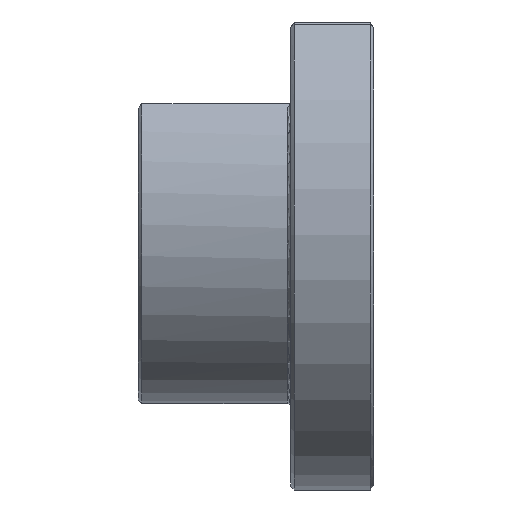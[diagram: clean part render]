
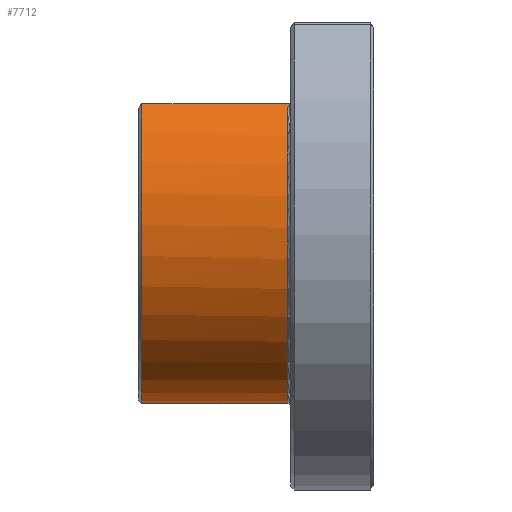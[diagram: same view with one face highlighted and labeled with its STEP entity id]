
A CAD part, left-side view. The second image highlights one B-rep face of the part: STEP entity #7712.
In plain terms, the highlighted cylindrical face has radius 27.5 mm (diameter 55 mm), a partial arc.
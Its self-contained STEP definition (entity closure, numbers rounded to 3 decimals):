
#106 = VERTEX_POINT ( 'NONE', #3977 ) ;
#721 = CARTESIAN_POINT ( 'NONE',  ( 0., 33.5, -27.5 ) ) ;
#757 = VECTOR ( 'NONE', #11191, 1000. ) ;
#1050 = DIRECTION ( 'NONE',  ( 0., -1., 0. ) ) ;
#1069 = EDGE_CURVE ( 'NONE', #8941, #8280, #2994, .T. ) ;
#1084 = DIRECTION ( 'NONE',  ( 0., 0., -1. ) ) ;
#1784 = CARTESIAN_POINT ( 'NONE',  ( 0., 12.5, 0. ) ) ;
#2421 =( BOUNDED_CURVE ( )  B_SPLINE_CURVE ( 3, ( #6848, #9699, #6203, #9764 ),
 .UNSPECIFIED., .F., .F. ) 
 B_SPLINE_CURVE_WITH_KNOTS ( ( 4, 4 ),
 ( 4.251, 4.278 ),
 .UNSPECIFIED. ) 
 CURVE ( )  GEOMETRIC_REPRESENTATION_ITEM ( )  RATIONAL_B_SPLINE_CURVE ( ( 1., 1., 1., 1. ) ) 
 REPRESENTATION_ITEM ( '' )  );
#2994 = LINE ( 'NONE', #5784, #757 ) ;
#3533 = EDGE_LOOP ( 'NONE', ( #9237, #11259, #7341, #3663, #4030 ) ) ;
#3663 = ORIENTED_EDGE ( 'NONE', *, *, #10586, .T. ) ;
#3804 = CARTESIAN_POINT ( 'NONE',  ( 0., 33.5, 0. ) ) ;
#3935 = CARTESIAN_POINT ( 'NONE',  ( -22.497, 33.5, 15.815 ) ) ;
#3977 = CARTESIAN_POINT ( 'NONE',  ( -22.908, 12.5, 15.214 ) ) ;
#4008 = CYLINDRICAL_SURFACE ( 'NONE', #7311, 27.5 ) ;
#4030 = ORIENTED_EDGE ( 'NONE', *, *, #11242, .T. ) ;
#4166 = CARTESIAN_POINT ( 'NONE',  ( 0., 12.5, -27.5 ) ) ;
#4916 = DIRECTION ( 'NONE',  ( 0., -1., 0. ) ) ;
#5042 = LINE ( 'NONE', #7680, #9696 ) ;
#5138 = EDGE_CURVE ( 'NONE', #8280, #106, #8106, .T. ) ;
#5338 = CARTESIAN_POINT ( 'NONE',  ( -22.497, 11.843, 15.815 ) ) ;
#5784 = CARTESIAN_POINT ( 'NONE',  ( 0., -24.17, -27.5 ) ) ;
#5931 = DIRECTION ( 'NONE',  ( 0., 0., -1. ) ) ;
#5981 = FACE_OUTER_BOUND ( 'NONE', #3533, .T. ) ;
#6203 = CARTESIAN_POINT ( 'NONE',  ( -22.637, 12.064, 15.616 ) ) ;
#6351 = EDGE_CURVE ( 'NONE', #9336, #8941, #10062, .T. ) ;
#6848 = CARTESIAN_POINT ( 'NONE',  ( -22.908, 12.5, 15.214 ) ) ;
#6907 = CARTESIAN_POINT ( 'NONE',  ( 0., -24.17, 0. ) ) ;
#7311 = AXIS2_PLACEMENT_3D ( 'NONE', #6907, #4916, #5931 ) ;
#7341 = ORIENTED_EDGE ( 'NONE', *, *, #5138, .T. ) ;
#7680 = CARTESIAN_POINT ( 'NONE',  ( -22.497, -24.17, 15.815 ) ) ;
#7712 = ADVANCED_FACE ( 'NONE', ( #5981 ), #4008, .T. ) ;
#8106 = CIRCLE ( 'NONE', #11708, 27.5 ) ;
#8280 = VERTEX_POINT ( 'NONE', #4166 ) ;
#8941 = VERTEX_POINT ( 'NONE', #721 ) ;
#9237 = ORIENTED_EDGE ( 'NONE', *, *, #6351, .T. ) ;
#9336 = VERTEX_POINT ( 'NONE', #3935 ) ;
#9696 = VECTOR ( 'NONE', #11448, 1000. ) ;
#9699 = CARTESIAN_POINT ( 'NONE',  ( -22.774, 12.283, 15.416 ) ) ;
#9764 = CARTESIAN_POINT ( 'NONE',  ( -22.497, 11.843, 15.815 ) ) ;
#10062 = CIRCLE ( 'NONE', #10447, 27.5 ) ;
#10414 = VERTEX_POINT ( 'NONE', #5338 ) ;
#10447 = AXIS2_PLACEMENT_3D ( 'NONE', #3804, #1050, #10745 ) ;
#10586 = EDGE_CURVE ( 'NONE', #106, #10414, #2421, .T. ) ;
#10745 = DIRECTION ( 'NONE',  ( 0., 0., -1. ) ) ;
#11191 = DIRECTION ( 'NONE',  ( 0., -1., 0. ) ) ;
#11242 = EDGE_CURVE ( 'NONE', #10414, #9336, #5042, .T. ) ;
#11259 = ORIENTED_EDGE ( 'NONE', *, *, #1069, .T. ) ;
#11448 = DIRECTION ( 'NONE',  ( 0., 1., 0. ) ) ;
#11602 = DIRECTION ( 'NONE',  ( 0., 1., 0. ) ) ;
#11708 = AXIS2_PLACEMENT_3D ( 'NONE', #1784, #11602, #1084 ) ;
